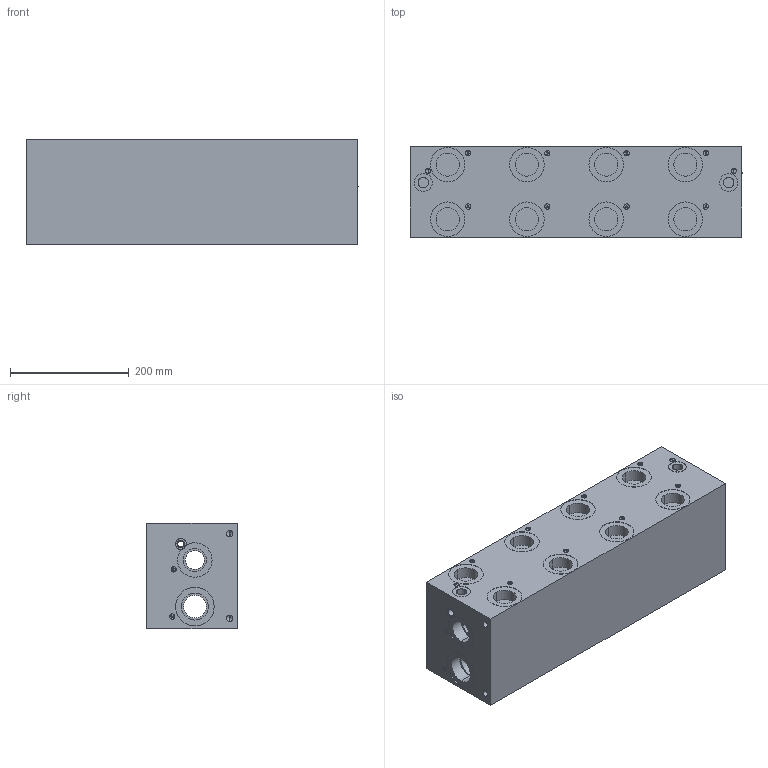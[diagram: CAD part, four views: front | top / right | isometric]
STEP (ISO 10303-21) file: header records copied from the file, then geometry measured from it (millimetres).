
FILE_DESCRIPTION (( 'STEP AP203' ), '1' );
FILE_NAME ('BMR-AHP08S5-04-1_Z.STEP', '2015-01-06T16:24:46', ( '' ), ( '' ), 'SwSTEP 2.0', 'SolidWorks 2014', '' );
FILE_SCHEMA (( 'CONFIG_CONTROL_DESIGN' ));
Length unit declared in the file: inch
Products named in the file (1): BMR-AHP08S5-04-1_Z
Bounding box: 558.8 x 152.4 x 177.8 mm (x, y, z)
Volume: 13623058.6 mm3; surface area: 622351.7 mm2
Topology: 1 solids, 1 shells, 730 faces, 1750 edges, 1064 vertices
Faces by surface type: plane 284, cylinder 270, cone 120, bspline 56
Entity records: 23561 total; most frequent: CARTESIAN_POINT 7033, DIRECTION 3412, ORIENTED_EDGE 3260, EDGE_CURVE 1630, AXIS2_PLACEMENT_3D 1219, VERTEX_POINT 1064, VECTOR 974, LINE 974
